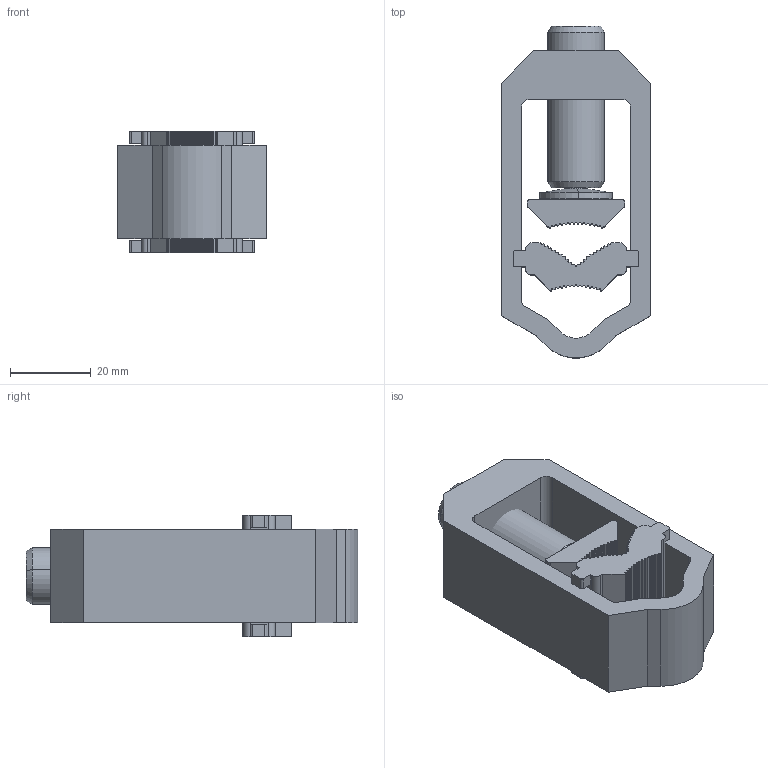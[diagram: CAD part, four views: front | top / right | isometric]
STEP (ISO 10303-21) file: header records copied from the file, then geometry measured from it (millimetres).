
FILE_DESCRIPTION (( 'STEP AP214' ), '1' );
FILE_NAME ('2 50-240SW.STEP', '2010-03-18T12:10:47', ( '£ukaszC' ), ( '' ), 'SwSTEP 2.0', 'SolidWorks 2008', '' );
FILE_SCHEMA (( 'AUTOMOTIVE_DESIGN' ));
Length unit declared in the file: millimetre
Products named in the file (6): 4.2-50240SW.02.00.00_Domyœlna; 4.50240SW.04.00.00; 4.50240SW.03.00.00; 4.2-50240SW.03.00.00; 4.2-50-240SW.01.00.00; 2 50-240SW
Assembly tree (5 placements, depth 2):
  2 50-240SW
    4.2-50240SW.03.00.00
    4.50240SW.04.00.00
    4.2-50-240SW.01.00.00
    4.2-50240SW.02.00.00_Domyœlna
    4.50240SW.03.00.00
Bounding box: 36.8 x 81.99 x 30 mm (x, y, z)
Volume: 38432.7 mm3; surface area: 18268.8 mm2
Topology: 5 solids, 5 shells, 406 faces, 1190 edges, 793 vertices
Faces by surface type: cylinder 218, plane 172, cone 16
Entity records: 14095 total; most frequent: CARTESIAN_POINT 3035, ORIENTED_EDGE 2376, DIRECTION 2240, EDGE_CURVE 1188, AXIS2_PLACEMENT_3D 802, VERTEX_POINT 793, VECTOR 636, LINE 636
